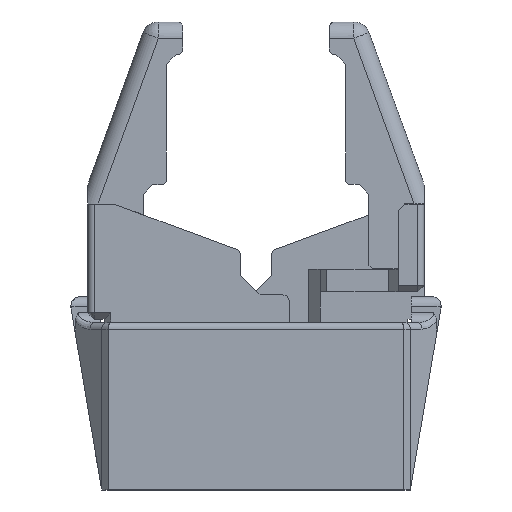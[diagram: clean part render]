
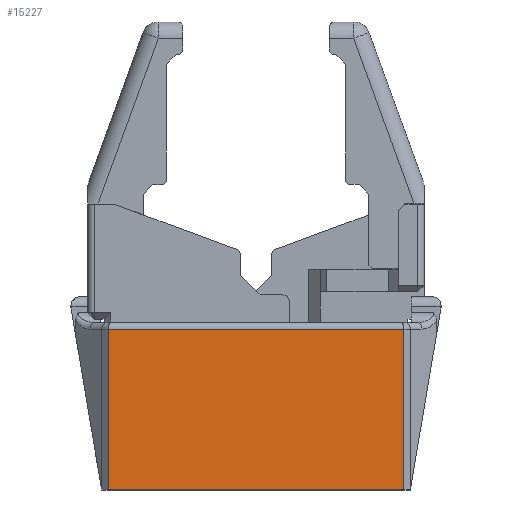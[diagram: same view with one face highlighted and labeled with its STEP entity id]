
A CAD part, front view. The second image highlights one B-rep face of the part: STEP entity #15227.
In plain terms, the highlighted planar face has unit normal (0, -1, 0) as drawn and (0, 0, 1) by its records, which use the part's own axes.
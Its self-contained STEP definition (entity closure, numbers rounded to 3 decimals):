
#1013=PLANE('',#16518);
#1636=FACE_OUTER_BOUND('',#2551,.T.);
#2551=EDGE_LOOP('',(#11854,#11855,#11856,#11857));
#3659=LINE('',#29816,#5165);
#3668=LINE('',#29888,#5174);
#3670=LINE('',#29892,#5176);
#3671=LINE('',#29893,#5177);
#5165=VECTOR('',#18611,10.);
#5174=VECTOR('',#18644,10.);
#5176=VECTOR('',#18648,10.);
#5177=VECTOR('',#18649,10.);
#7019=VERTEX_POINT('',#29811);
#7020=VERTEX_POINT('',#29815);
#7029=VERTEX_POINT('',#29887);
#7030=VERTEX_POINT('',#29891);
#8780=EDGE_CURVE('',#7020,#7019,#3659,.T.);
#8796=EDGE_CURVE('',#7019,#7029,#3668,.T.);
#8798=EDGE_CURVE('',#7030,#7020,#3670,.T.);
#8799=EDGE_CURVE('',#7030,#7029,#3671,.T.);
#11854=ORIENTED_EDGE('',*,*,#8780,.F.);
#11855=ORIENTED_EDGE('',*,*,#8798,.F.);
#11856=ORIENTED_EDGE('',*,*,#8799,.T.);
#11857=ORIENTED_EDGE('',*,*,#8796,.F.);
#15227=ADVANCED_FACE('',(#1636),#1013,.T.);
#16518=AXIS2_PLACEMENT_3D('',#29890,#18646,#18647);
#18611=DIRECTION('',(1.,0.,0.));
#18644=DIRECTION('',(0.,-1.,0.));
#18646=DIRECTION('center_axis',(0.,0.,1.));
#18647=DIRECTION('ref_axis',(1.,0.,0.));
#18648=DIRECTION('',(0.,1.,0.));
#18649=DIRECTION('',(1.,0.,0.));
#29811=CARTESIAN_POINT('',(45.5,49.5,25.));
#29815=CARTESIAN_POINT('',(-45.5,49.5,25.));
#29816=CARTESIAN_POINT('',(-23.75,49.5,25.));
#29887=CARTESIAN_POINT('',(45.5,0.,25.));
#29888=CARTESIAN_POINT('',(45.5,0.,25.));
#29890=CARTESIAN_POINT('Origin',(-47.5,0.,25.));
#29891=CARTESIAN_POINT('',(-45.5,0.,25.));
#29892=CARTESIAN_POINT('',(-45.5,0.,25.));
#29893=CARTESIAN_POINT('',(-47.5,0.,25.));
